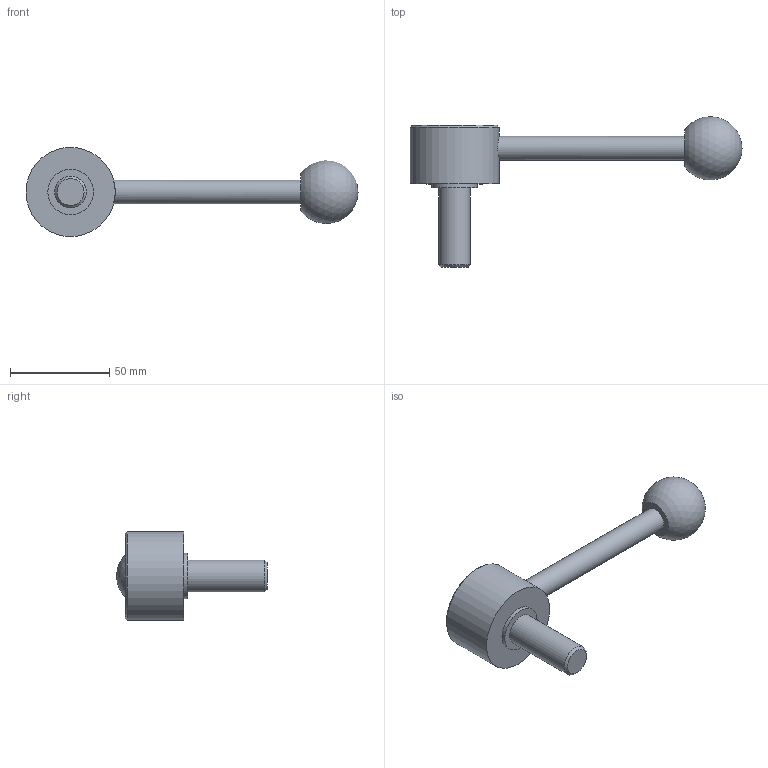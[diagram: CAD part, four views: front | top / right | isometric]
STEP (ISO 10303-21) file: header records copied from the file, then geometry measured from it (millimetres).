
FILE_DESCRIPTION( ( 'STEP AP203' ), '1' );
FILE_NAME( 'C:/Temp/Ganter_Step_05_03_2020/data/2_1/gn_125/gn_125_ms/gn_125_ms_d/Flat Adjustable Lever GN 125-45-M16-40-D.stp', '2020-03-05T11:00:52', ( 'License CC BY-ND 4.0' ), ( 'CADENAS' ), ' ', 'PARTsolutions', ' ' );
FILE_SCHEMA( ( 'CONFIG_CONTROL_DESIGN' ) );
Length unit declared in the file: millimetre
Products named in the file (1): _Flat Adjustable Lever GN 125-45-M16-40-D
Bounding box: 167.5 x 75.88 x 45 mm (x, y, z)
Volume: 82815 mm3; surface area: 15911 mm2
Topology: 1 solids, 1 shells, 14 faces, 23 edges, 15 vertices
Faces by surface type: plane 6, cylinder 5, cone 2, sphere 1
Full cylindrical faces by diameter (mm): 12 x1, 16 x1, 23 x1, 32 x1, 45 x1
Entity records: 402 total; most frequent: CARTESIAN_POINT 125, DIRECTION 54, AXIS2_PLACEMENT_3D 27, EDGE_LOOP 26, ORIENTED_EDGE 26, FACE_OUTER_BOUND 19, ADVANCED_FACE 14, VERTEX_POINT 14
